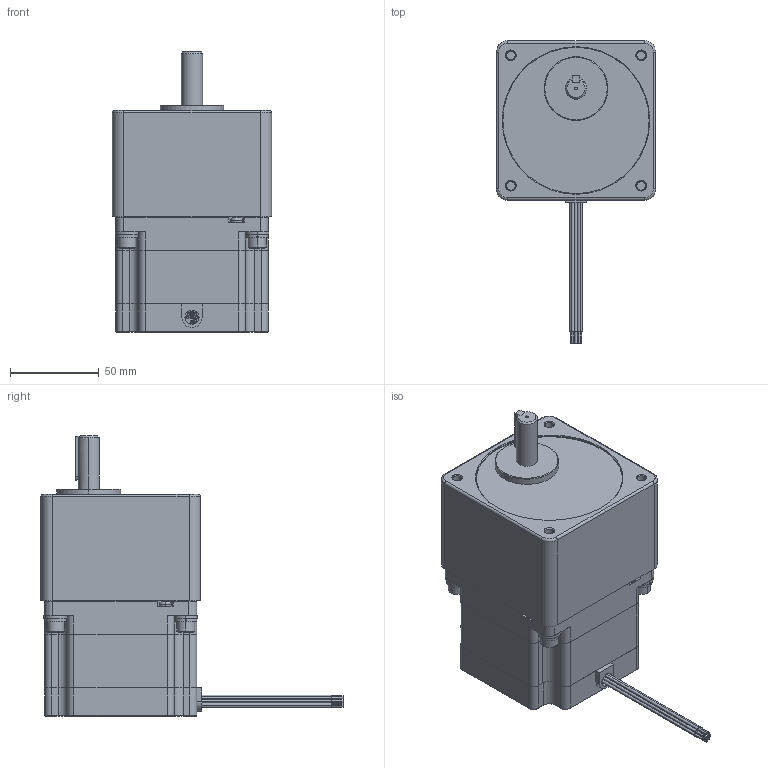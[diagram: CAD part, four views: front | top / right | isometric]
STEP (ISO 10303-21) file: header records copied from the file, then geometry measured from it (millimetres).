
FILE_DESCRIPTION (( 'STEP AP214' ), '1' );
FILE_NAME ('34YSG008S-LW8-R50.STEP', '2010-06-18T16:32:29', ( 'Tim Raines' ), ( 'Anaheim Automation' ), 'SwSTEP 2.0', 'SolidWorks 2010', '' );
FILE_SCHEMA (( 'AUTOMOTIVE_DESIGN' ));
Length unit declared in the file: millimetre
Products named in the file (6): 34YSG Motor_34YSG008S-LW8; Lock Washer Spring Regular_AI_Regular LW 0.25; 34SG Series_34SG2; Flat Washer Narrow_AM_B18.22M - Plain washer, 6 mm, narrow; Socket Head Cap Screw_AM_B18.3.1M - 6 x 1.0 x 20 Hex SHCS -- 20NHX; 34YSG008S-LW8-R50
Assembly tree (14 placements, depth 2):
  34YSG008S-LW8-R50
    Flat Washer Narrow_AM_B18.22M - Plain washer, 6 mm, narrow  x4
    Lock Washer Spring Regular_AI_Regular LW 0.25  x4
    Socket Head Cap Screw_AM_B18.3.1M - 6 x 1.0 x 20 Hex SHCS -- 20NHX  x4
    34YSG Motor_34YSG008S-LW8
    34SG Series_34SG2
Bounding box: 89.92 x 170.43 x 158.02 mm (x, y, z)
Volume: 910919.3 mm3; surface area: 92061.7 mm2
Topology: 14 solids, 14 shells, 575 faces, 1363 edges, 848 vertices
Faces by surface type: plane 272, cylinder 190, cone 93, torus 20
Entity records: 18465 total; most frequent: CARTESIAN_POINT 2581, DIRECTION 2415, ORIENTED_EDGE 2214, EDGE_CURVE 1107, AXIS2_PLACEMENT_3D 895, VERTEX_POINT 701, VECTOR 625, LINE 625
